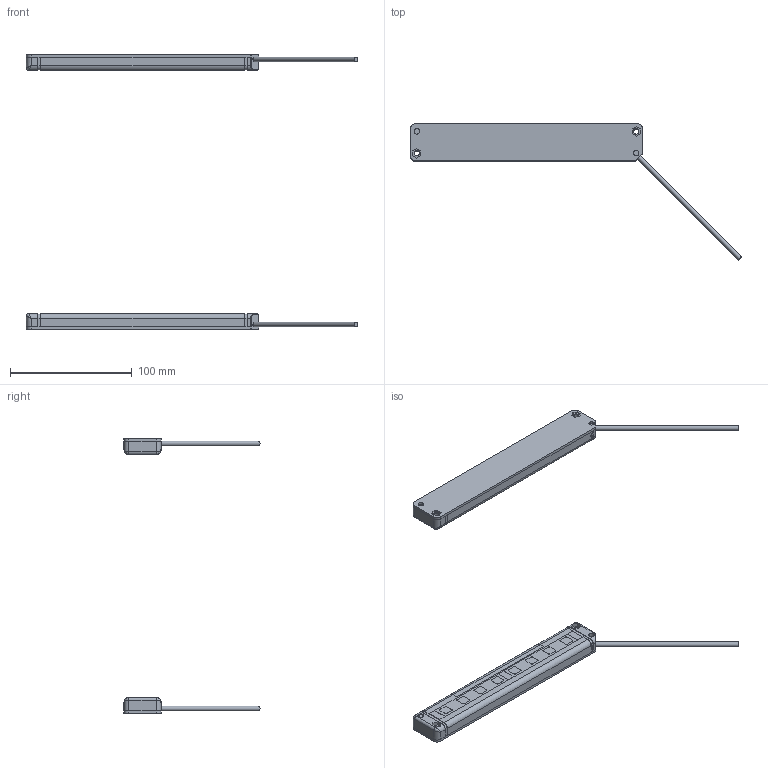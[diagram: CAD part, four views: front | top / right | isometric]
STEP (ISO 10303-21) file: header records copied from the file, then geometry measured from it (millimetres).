
FILE_DESCRIPTION(/* description */ (''),/* implementation_level */ '2;1');
FILE_NAME(/* name */ 'F:\HUAYIFENG\01)HUAYIFENG_宣传文件\01)HUAYIFENG_\X2\5BA34F2065874EF6\X0\_产品资料整合\03)产品3D文档\05)安全_区域系列_K12_2019\05-05)HAL系列_3D\01)HAL0820_3D.stp',/* time_stamp */ '2019-07-08T16:54:37+08:00',/* author */ ('fengjiarun'),/* organization */ (''),/* preprocessor_version */ 'ST-DEVELOPER v16.5',/* originating_system */ 'Autodesk Inventor 2017',/* authorisation */ '');
FILE_SCHEMA (('AUTOMOTIVE_DESIGN { 1 0 10303 214 3 1 1 }'));
Length unit declared in the file: millimetre
Products named in the file (1): 零件44
Bounding box: 272.39 x 111.89 x 226 mm (x, y, z)
Volume: 141184.7 mm3; surface area: 42604.8 mm2
Topology: 2 solids, 8 shells, 458 faces, 1170 edges, 746 vertices
Faces by surface type: plane 310, cylinder 138, bspline 10
Full cylindrical faces by diameter (mm): 4 x2, 4.5 x16
Entity records: 14243 total; most frequent: CARTESIAN_POINT 2585, DIRECTION 2314, ORIENTED_EDGE 2272, EDGE_CURVE 1136, LINE 856, VECTOR 856, VERTEX_POINT 736, AXIS2_PLACEMENT_3D 729
